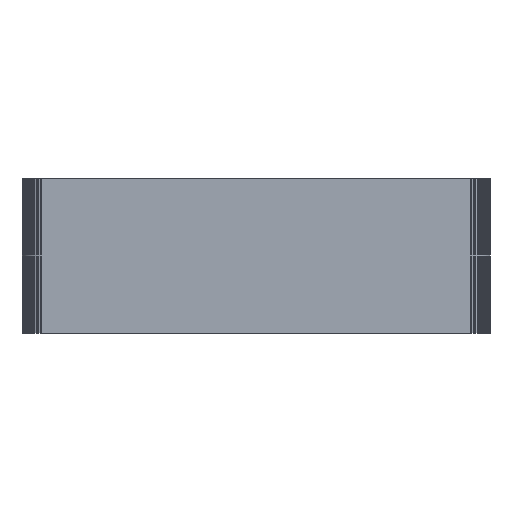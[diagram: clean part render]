
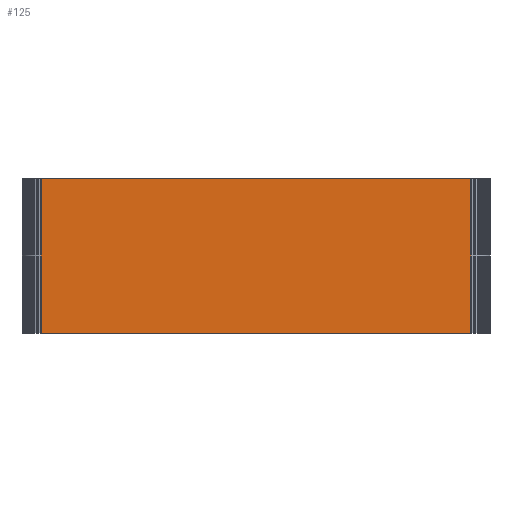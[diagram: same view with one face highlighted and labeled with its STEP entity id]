
A CAD part, front view. The second image highlights one B-rep face of the part: STEP entity #125.
In plain terms, the highlighted free-form (B-spline) face has degree [1, 1] with [2, 2] control points.
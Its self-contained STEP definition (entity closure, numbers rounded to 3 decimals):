
#21 = EDGE_CURVE('',#22,#24,#26,.T.);
#22 = VERTEX_POINT('',#23);
#23 = CARTESIAN_POINT('',(21.5,4.13,0.));
#24 = VERTEX_POINT('',#25);
#25 = CARTESIAN_POINT('',(21.5,4.13,20.)
  );
#26 = SURFACE_CURVE('',#27,(#30,#41),.PCURVE_S1.);
#27 = B_SPLINE_CURVE_WITH_KNOTS('',1,(#28,#29),.UNSPECIFIED.,.F.,.F.,(2,
    2),(0.,787.402),.PIECEWISE_BEZIER_KNOTS.);
#28 = CARTESIAN_POINT('',(21.5,4.13,0.));
#29 = CARTESIAN_POINT('',(21.5,4.13,20.)
  );
#30 = PCURVE('',#31,#36);
#31 = B_SPLINE_SURFACE_WITH_KNOTS('',1,1,(
    (#32,#33)
    ,(#34,#35
    )),.UNSPECIFIED.,.F.,.F.,.F.,(2,2),(2,2),(0.,6.721),(
    -787.402,0.),.PIECEWISE_BEZIER_KNOTS.);
#32 = CARTESIAN_POINT('',(21.5,4.13,20.)
  );
#33 = CARTESIAN_POINT('',(21.5,4.13,0.));
#34 = CARTESIAN_POINT('',(21.329,4.136,20.
    ));
#35 = CARTESIAN_POINT('',(21.329,4.136,0.));
#36 = DEFINITIONAL_REPRESENTATION('',(#37),#40);
#37 = B_SPLINE_CURVE_WITH_KNOTS('',1,(#38,#39),.UNSPECIFIED.,.F.,.F.,(2,
    2),(0.,787.402),.PIECEWISE_BEZIER_KNOTS.);
#38 = CARTESIAN_POINT('',(0.,0.));
#39 = CARTESIAN_POINT('',(0.,-787.402));
#40 = ( GEOMETRIC_REPRESENTATION_CONTEXT(2) 
PARAMETRIC_REPRESENTATION_CONTEXT() REPRESENTATION_CONTEXT('2D SPACE',''
  ) );
#41 = PCURVE('',#42,#47);
#42 = B_SPLINE_SURFACE_WITH_KNOTS('',1,1,(
    (#43,#44)
    ,(#45,#46
  )),.UNSPECIFIED.,.F.,.F.,.F.,(2,2),(2,2),(0.,2187.359),(-787.402
    ,0.),.PIECEWISE_BEZIER_KNOTS.);
#43 = CARTESIAN_POINT('',(77.059,4.13,20.)
  );
#44 = CARTESIAN_POINT('',(77.059,4.13,0.));
#45 = CARTESIAN_POINT('',(21.5,4.13,20.)
  );
#46 = CARTESIAN_POINT('',(21.5,4.13,0.));
#47 = DEFINITIONAL_REPRESENTATION('',(#48),#51);
#48 = B_SPLINE_CURVE_WITH_KNOTS('',1,(#49,#50),.UNSPECIFIED.,.F.,.F.,(2,
    2),(0.,787.402),.PIECEWISE_BEZIER_KNOTS.);
#49 = CARTESIAN_POINT('',(2187.359,0.));
#50 = CARTESIAN_POINT('',(2187.359,-787.402));
#51 = ( GEOMETRIC_REPRESENTATION_CONTEXT(2) 
PARAMETRIC_REPRESENTATION_CONTEXT() REPRESENTATION_CONTEXT('2D SPACE',''
  ) );
#67 = B_SPLINE_SURFACE_WITH_KNOTS('',1,1,(
    (#68,#69)
    ,(#70,#71
    )),.UNSPECIFIED.,.F.,.F.,.F.,(2,2),(2,2),(-1192.105,
    1192.105),(-2270.276,-1664.683),
  .PIECEWISE_BEZIER_KNOTS.);
#68 = CARTESIAN_POINT('',(79.559,4.13,20.)
  );
#69 = CARTESIAN_POINT('',(79.559,19.512,
    20.));
#70 = CARTESIAN_POINT('',(19.,4.13,20.)
  );
#71 = CARTESIAN_POINT('',(19.,19.512,
    20.));
#115 = B_SPLINE_SURFACE_WITH_KNOTS('',1,1,(
    (#116,#117)
    ,(#118,#119
    )),.UNSPECIFIED.,.F.,.F.,.F.,(2,2),(2,2),(-1192.105,
    1192.105),(-2270.276,2270.276),
  .PIECEWISE_BEZIER_KNOTS.);
#116 = CARTESIAN_POINT('',(79.559,4.13,0.));
#117 = CARTESIAN_POINT('',(79.559,119.46,0.));
#118 = CARTESIAN_POINT('',(19.,4.13,0.));
#119 = CARTESIAN_POINT('',(19.,119.46,0.));
#125 = ADVANCED_FACE('',(#126),#42,.T.);
#126 = FACE_BOUND('',#127,.T.);
#127 = EDGE_LOOP('',(#128,#155,#173,#174));
#128 = ORIENTED_EDGE('',*,*,#129,.T.);
#129 = EDGE_CURVE('',#130,#132,#134,.T.);
#130 = VERTEX_POINT('',#131);
#131 = CARTESIAN_POINT('',(77.059,4.13,0.));
#132 = VERTEX_POINT('',#133);
#133 = CARTESIAN_POINT('',(77.059,4.13,20.
    ));
#134 = SURFACE_CURVE('',#135,(#138,#144),.PCURVE_S1.);
#135 = B_SPLINE_CURVE_WITH_KNOTS('',1,(#136,#137),.UNSPECIFIED.,.F.,.F.,
  (2,2),(0.,787.402),.PIECEWISE_BEZIER_KNOTS.);
#136 = CARTESIAN_POINT('',(77.059,4.13,0.));
#137 = CARTESIAN_POINT('',(77.059,4.13,20.
    ));
#138 = PCURVE('',#42,#139);
#139 = DEFINITIONAL_REPRESENTATION('',(#140),#143);
#140 = B_SPLINE_CURVE_WITH_KNOTS('',1,(#141,#142),.UNSPECIFIED.,.F.,.F.,
  (2,2),(0.,787.402),.PIECEWISE_BEZIER_KNOTS.);
#141 = CARTESIAN_POINT('',(0.,0.));
#142 = CARTESIAN_POINT('',(0.,-787.402));
#143 = ( GEOMETRIC_REPRESENTATION_CONTEXT(2) 
PARAMETRIC_REPRESENTATION_CONTEXT() REPRESENTATION_CONTEXT('2D SPACE',''
  ) );
#144 = PCURVE('',#145,#150);
#145 = B_SPLINE_SURFACE_WITH_KNOTS('',1,1,(
    (#146,#147)
    ,(#148,#149
    )),.UNSPECIFIED.,.F.,.F.,.F.,(2,2),(2,2),(0.,6.721),(
    -787.402,0.),.PIECEWISE_BEZIER_KNOTS.);
#146 = CARTESIAN_POINT('',(77.23,4.136,
    20.));
#147 = CARTESIAN_POINT('',(77.23,4.136,0.));
#148 = CARTESIAN_POINT('',(77.059,4.13,20.
    ));
#149 = CARTESIAN_POINT('',(77.059,4.13,0.));
#150 = DEFINITIONAL_REPRESENTATION('',(#151),#154);
#151 = B_SPLINE_CURVE_WITH_KNOTS('',1,(#152,#153),.UNSPECIFIED.,.F.,.F.,
  (2,2),(0.,787.402),.PIECEWISE_BEZIER_KNOTS.);
#152 = CARTESIAN_POINT('',(6.721,0.));
#153 = CARTESIAN_POINT('',(6.721,-787.402));
#154 = ( GEOMETRIC_REPRESENTATION_CONTEXT(2) 
PARAMETRIC_REPRESENTATION_CONTEXT() REPRESENTATION_CONTEXT('2D SPACE',''
  ) );
#155 = ORIENTED_EDGE('',*,*,#156,.T.);
#156 = EDGE_CURVE('',#132,#24,#157,.T.);
#157 = SURFACE_CURVE('',#158,(#161,#167),.PCURVE_S1.);
#158 = B_SPLINE_CURVE_WITH_KNOTS('',1,(#159,#160),.UNSPECIFIED.,.F.,.F.,
  (2,2),(0.,2187.359),.PIECEWISE_BEZIER_KNOTS.);
#159 = CARTESIAN_POINT('',(77.059,4.13,20.
    ));
#160 = CARTESIAN_POINT('',(21.5,4.13,20.
    ));
#161 = PCURVE('',#42,#162);
#162 = DEFINITIONAL_REPRESENTATION('',(#163),#166);
#163 = B_SPLINE_CURVE_WITH_KNOTS('',1,(#164,#165),.UNSPECIFIED.,.F.,.F.,
  (2,2),(0.,2187.359),.PIECEWISE_BEZIER_KNOTS.);
#164 = CARTESIAN_POINT('',(0.,-787.402));
#165 = CARTESIAN_POINT('',(2187.359,-787.402));
#166 = ( GEOMETRIC_REPRESENTATION_CONTEXT(2) 
PARAMETRIC_REPRESENTATION_CONTEXT() REPRESENTATION_CONTEXT('2D SPACE',''
  ) );
#167 = PCURVE('',#67,#168);
#168 = DEFINITIONAL_REPRESENTATION('',(#169),#172);
#169 = B_SPLINE_CURVE_WITH_KNOTS('',1,(#170,#171),.UNSPECIFIED.,.F.,.F.,
  (2,2),(0.,2187.359),.PIECEWISE_BEZIER_KNOTS.);
#170 = CARTESIAN_POINT('',(-1093.679,-2270.276));
#171 = CARTESIAN_POINT('',(1093.679,-2270.276));
#172 = ( GEOMETRIC_REPRESENTATION_CONTEXT(2) 
PARAMETRIC_REPRESENTATION_CONTEXT() REPRESENTATION_CONTEXT('2D SPACE',''
  ) );
#173 = ORIENTED_EDGE('',*,*,#21,.F.);
#174 = ORIENTED_EDGE('',*,*,#175,.F.);
#175 = EDGE_CURVE('',#130,#22,#176,.T.);
#176 = SURFACE_CURVE('',#177,(#180,#186),.PCURVE_S1.);
#177 = B_SPLINE_CURVE_WITH_KNOTS('',1,(#178,#179),.UNSPECIFIED.,.F.,.F.,
  (2,2),(0.,2187.359),.PIECEWISE_BEZIER_KNOTS.);
#178 = CARTESIAN_POINT('',(77.059,4.13,0.));
#179 = CARTESIAN_POINT('',(21.5,4.13,0.));
#180 = PCURVE('',#42,#181);
#181 = DEFINITIONAL_REPRESENTATION('',(#182),#185);
#182 = B_SPLINE_CURVE_WITH_KNOTS('',1,(#183,#184),.UNSPECIFIED.,.F.,.F.,
  (2,2),(0.,2187.359),.PIECEWISE_BEZIER_KNOTS.);
#183 = CARTESIAN_POINT('',(0.,0.));
#184 = CARTESIAN_POINT('',(2187.359,0.));
#185 = ( GEOMETRIC_REPRESENTATION_CONTEXT(2) 
PARAMETRIC_REPRESENTATION_CONTEXT() REPRESENTATION_CONTEXT('2D SPACE',''
  ) );
#186 = PCURVE('',#115,#187);
#187 = DEFINITIONAL_REPRESENTATION('',(#188),#191);
#188 = B_SPLINE_CURVE_WITH_KNOTS('',1,(#189,#190),.UNSPECIFIED.,.F.,.F.,
  (2,2),(0.,2187.359),.PIECEWISE_BEZIER_KNOTS.);
#189 = CARTESIAN_POINT('',(-1093.679,-2270.276));
#190 = CARTESIAN_POINT('',(1093.679,-2270.276));
#191 = ( GEOMETRIC_REPRESENTATION_CONTEXT(2) 
PARAMETRIC_REPRESENTATION_CONTEXT() REPRESENTATION_CONTEXT('2D SPACE',''
  ) );
